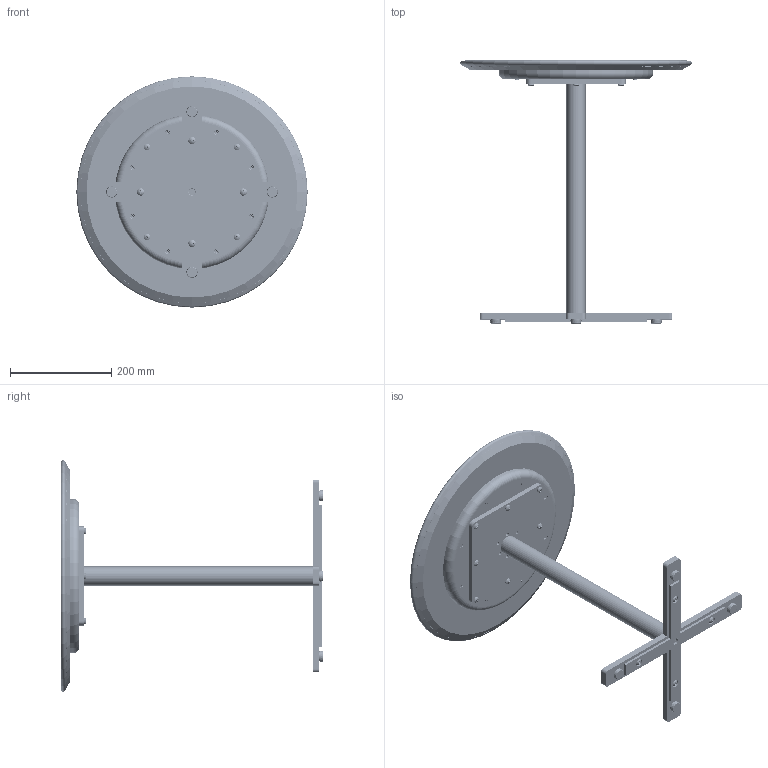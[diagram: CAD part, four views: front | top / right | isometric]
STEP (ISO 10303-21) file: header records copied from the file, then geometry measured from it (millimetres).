
FILE_DESCRIPTION(/* description */ ('CAPRI SIDE TABLE, 18'''' DIA X 20.5''''H '),/* implementation_level */ '2;1');
FILE_NAME(/* name */ '3132.stp',/* time_stamp */ '2025-07-03T12:57:24-04:00',/* author */ ('emendoza'),/* organization */ (''),/* preprocessor_version */ 'ST-DEVELOPER v20',/* originating_system */ 'Autodesk Inventor 2025',/* authorisation */ '');
FILE_SCHEMA (('AUTOMOTIVE_DESIGN { 1 0 10303 214 3 1 1 }'));
Products named in the file (39): 3132; 3132-010; 3132-011; 3132-011_1; 3132-012; 3132-013; HD01-036; HD01-213; 3138-019; 3132-014 ; 3132-014 _1; 3132-015; 3132-016 -  CAPRI BASE - STIFFENER - SHORT; 3132-016 -  CAPRI BASE - STIFFENER - SHORT_1; 3133-020; 3133-020_1; 3133-017; 3133-018 ; PA230; MEFA311; 3133-021; FA01-003; 3132-030; 3132-031; FA151; 3132-040; 3132-041; 3132-042; 3132-044; 3132-045; 3132-046; 3132-047; 3132-043 ; 3132-043 _1; 3132-043 _2; 3132-043 _3; 3132-043 _4; FA012; 95170-OS
Assembly tree (74 placements, depth 6):
  3132
    3132-010
      3132-011
        3132-011_1
        3132-012
        3132-013  x2
        HD01-036  x8
        HD01-213
      3138-019
      3132-014 
        3132-014 _1
        3132-015
        3132-016 -  CAPRI BASE - STIFFENER - SHORT
        3132-016 -  CAPRI BASE - STIFFENER - SHORT_1
      3133-020
        3133-020_1
        3133-017
        3133-018   x2
      PA230  x4
      MEFA311
      3133-021
      FA01-003  x4
    3132-030
      3132-031
      FA151  x8
    3132-040
      3132-041
        3132-042
          3132-044
            3132-045
            3132-046
            3132-047
          3132-043 
          3132-043 _1
          3132-043 _2
          3132-043 _3
          3132-043 _4
    FA012  x8
    95170-OS  x8
Bounding box: 457.2 x 519.91 x 457.2 mm (x, y, z)
Volume: 5090718.9 mm3; surface area: 1513298.8 mm2
Topology: 92 solids, 92 shells, 2583 faces, 6936 edges, 4609 vertices
Faces by surface type: cylinder 1256, plane 881, cone 251, bspline 115, torus 68, sphere 12
Full cylindrical faces by diameter (mm): 2.812 x72, 3.489 x8, 4.166 x72, 4.7 x248, 4.711 x20, 4.762 x8, 6.35 x288, 7.144 x18, 7.747 x16, 7.938 x16, 8.433 x8, 10.162 x3, 11.112 x4, 12.497 x8, 12.7 x10, 13.494 x3, 14.287 x1, 14.554 x4, 15.088 x1, 15.875 x5, 19.05 x8, 19.844 x8, 22.225 x4, 31.75 x1, 33.337 x1, 34.798 x1, 38.1 x1, 76.2 x1, 304.8 x1, 431.8 x1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
Entity records: 39390 total; most frequent: CARTESIAN_POINT 20813, DIRECTION 3580, ORIENTED_EDGE 3526, EDGE_CURVE 1763, AXIS2_PLACEMENT_3D 1392, VERTEX_POINT 1166, EDGE_LOOP 851, LINE 796
